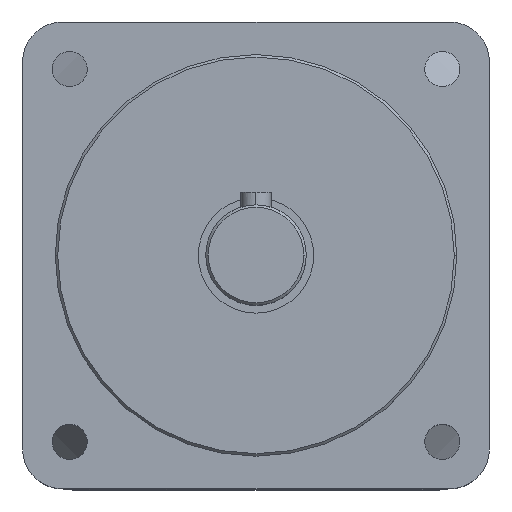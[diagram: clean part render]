
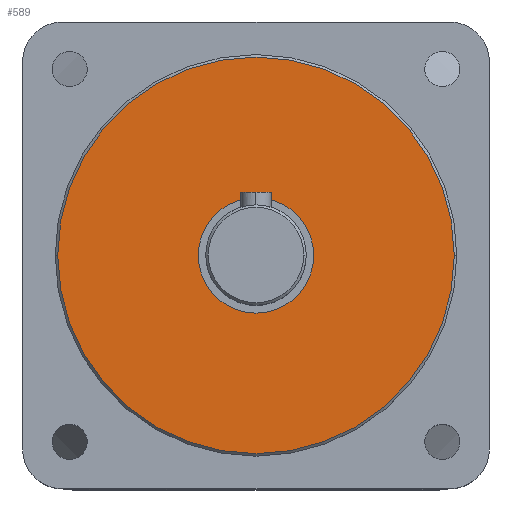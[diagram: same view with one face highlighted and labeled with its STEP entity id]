
A CAD part, top view. The second image highlights one B-rep face of the part: STEP entity #589.
In plain terms, the highlighted planar face has unit normal (0, 0, 1).
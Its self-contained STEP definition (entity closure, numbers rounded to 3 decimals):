
#185 = VERTEX_POINT ( 'NONE', #1267 ) ;
#191 = EDGE_CURVE ( 'NONE', #194, #185, #1319, .T. ) ;
#194 = VERTEX_POINT ( 'NONE', #1309 ) ;
#473 = EDGE_CURVE ( 'NONE', #556, #530, #1887, .T. ) ;
#530 = VERTEX_POINT ( 'NONE', #2065 ) ;
#556 = VERTEX_POINT ( 'NONE', #2082 ) ;
#566 = ORIENTED_EDGE ( 'NONE', *, *, #191, .T. ) ;
#567 = EDGE_LOOP ( 'NONE', ( #568, #570 ) ) ;
#568 = ORIENTED_EDGE ( 'NONE', *, *, #569, .F. ) ;
#569 = EDGE_CURVE ( 'NONE', #530, #556, #2136, .T. ) ;
#570 = ORIENTED_EDGE ( 'NONE', *, *, #473, .F. ) ;
#589 = ADVANCED_FACE ( 'NONE', ( #2152, #2151 ), #2150, .T. ) ;
#590 = EDGE_LOOP ( 'NONE', ( #591, #566 ) ) ;
#591 = ORIENTED_EDGE ( 'NONE', *, *, #592, .T. ) ;
#592 = EDGE_CURVE ( 'NONE', #185, #194, #2144, .T. ) ;
#1267 = CARTESIAN_POINT ( 'NONE',  ( -39.5, 0., 24. ) ) ;
#1309 = CARTESIAN_POINT ( 'NONE',  ( 39.5, 0., 24. ) ) ;
#1315 = DIRECTION ( 'NONE',  ( 1., 0., 0. ) ) ;
#1316 = DIRECTION ( 'NONE',  ( 0., 0., 1. ) ) ;
#1317 = CARTESIAN_POINT ( 'NONE',  ( 0., 0., 24. ) ) ;
#1318 = AXIS2_PLACEMENT_3D ( 'NONE', #1317, #1316, #1315 ) ;
#1319 = CIRCLE ( 'NONE', #1318, 39.5 ) ;
#1883 = DIRECTION ( 'NONE',  ( 1., 0., 0. ) ) ;
#1884 = DIRECTION ( 'NONE',  ( 0., 0., 1. ) ) ;
#1885 = CARTESIAN_POINT ( 'NONE',  ( 0., 0., 24. ) ) ;
#1886 = AXIS2_PLACEMENT_3D ( 'NONE', #1885, #1884, #1883 ) ;
#1887 = CIRCLE ( 'NONE', #1886, 11.5 ) ;
#2065 = CARTESIAN_POINT ( 'NONE',  ( -11.5, 0., 24. ) ) ;
#2082 = CARTESIAN_POINT ( 'NONE',  ( 11.5, 0., 24. ) ) ;
#2132 = DIRECTION ( 'NONE',  ( 1., 0., 0. ) ) ;
#2133 = DIRECTION ( 'NONE',  ( 0., 0., 1. ) ) ;
#2134 = CARTESIAN_POINT ( 'NONE',  ( 0., 0., 24. ) ) ;
#2135 = AXIS2_PLACEMENT_3D ( 'NONE', #2134, #2133, #2132 ) ;
#2136 = CIRCLE ( 'NONE', #2135, 11.5 ) ;
#2141 = DIRECTION ( 'NONE',  ( 1., 0., 0. ) ) ;
#2142 = DIRECTION ( 'NONE',  ( 0., 0., 1. ) ) ;
#2143 = AXIS2_PLACEMENT_3D ( 'NONE', #2148, #2142, #2141 ) ;
#2144 = CIRCLE ( 'NONE', #2143, 39.5 ) ;
#2145 = DIRECTION ( 'NONE',  ( 1., 0., 0. ) ) ;
#2146 = DIRECTION ( 'NONE',  ( 0., 0., 1. ) ) ;
#2147 = CARTESIAN_POINT ( 'NONE',  ( 0., 0., 24. ) ) ;
#2148 = CARTESIAN_POINT ( 'NONE',  ( 0., 0., 24. ) ) ;
#2149 = AXIS2_PLACEMENT_3D ( 'NONE', #2147, #2146, #2145 ) ;
#2150 = PLANE ( 'NONE',  #2149 ) ;
#2151 = FACE_BOUND ( 'NONE', #567, .T. ) ;
#2152 = FACE_OUTER_BOUND ( 'NONE', #590, .T. ) ;
